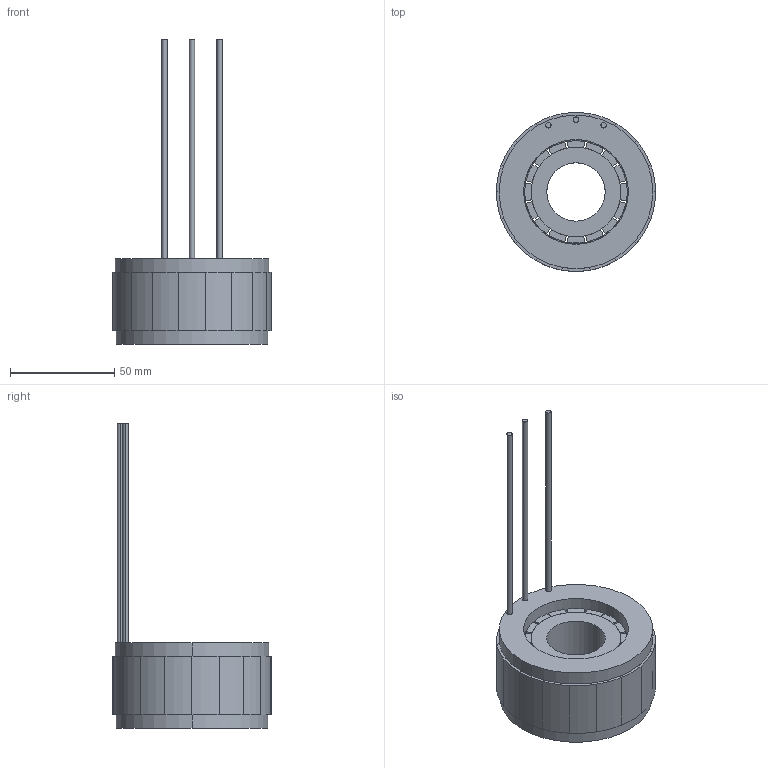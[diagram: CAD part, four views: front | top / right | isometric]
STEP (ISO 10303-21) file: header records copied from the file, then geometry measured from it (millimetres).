
FILE_DESCRIPTION (( 'STEP AP203' ), '1' );
FILE_NAME ('307080359SS £¨FMC07628-0063-3728N-8DK00)-V1.0.STEP', '2022-12-08T09:43:25', ( 'muse' ), ( 'muse' ), 'SwSTEP 2.0', 'SolidWorks 2022', '' );
FILE_SCHEMA (( 'CONFIG_CONTROL_DESIGN' ));
Length unit declared in the file: millimetre
Products named in the file (5): 76定子铁芯; 307080359SS （FMC07628-0063-3728N-8DK00)-V1.0; 磁钢76; 76线包; 76
Assembly tree (36 placements, depth 2):
  307080359SS （FMC07628-0063-3728N-8DK00)-V1.0
    76定子铁芯  x18
    76线包
    76
    磁钢76  x16
Bounding box: 76.2 x 76.07 x 145.9 mm (x, y, z)
Volume: 118064 mm3; surface area: 70569.1 mm2
Topology: 37 solids, 37 shells, 555 faces, 1434 edges, 956 vertices
Faces by surface type: plane 361, cylinder 194
Entity records: 3199 total; most frequent: DIRECTION 380, CARTESIAN_POINT 316, ORIENTED_EDGE 264, AXIS2_PLACEMENT_3D 152, EDGE_CURVE 132, LOCAL_TIME 97, COORDINATED_UNIVERSAL_TIME_OFFSET 97, DATE_AND_TIME 97
